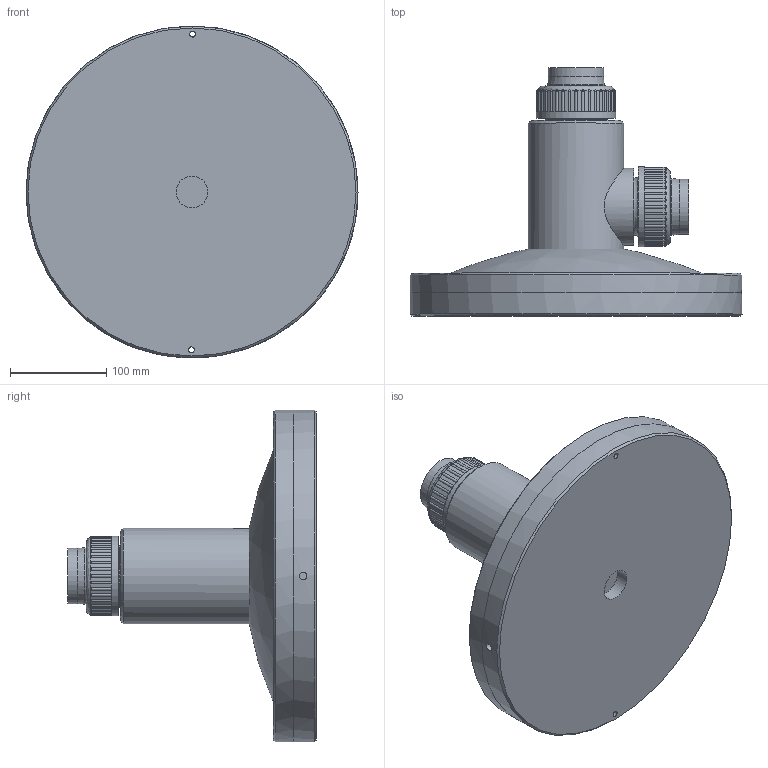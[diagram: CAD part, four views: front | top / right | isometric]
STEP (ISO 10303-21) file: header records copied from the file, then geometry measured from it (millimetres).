
FILE_DESCRIPTION (( 'STEP AP214' ), '1' );
FILE_NAME ('50-2150-0X.STEP', '2021-09-28T13:34:55', ( '' ), ( '' ), 'SwSTEP 2.0', 'SolidWorks 2020', '' );
FILE_SCHEMA (( 'AUTOMOTIVE_DESIGN' ));
Length unit declared in the file: millimetre
Products named in the file (1): 50-2150-0X
Bounding box: 345 x 258 x 345 mm (x, y, z)
Volume: 6399957 mm3; surface area: 336861.8 mm2
Topology: 1 solids, 1 shells, 457 faces, 1241 edges, 828 vertices
Faces by surface type: cylinder 196, plane 160, bspline 79, cone 20, sphere 1, torus 1
Full cylindrical faces by diameter (mm): 6 x4, 8 x1, 10 x16, 10.5 x16, 33 x1, 48.3 x2, 57.5 x2, 59 x2, 59.1 x1, 80 x1, 83 x2, 99 x1, 345 x2
Entity records: 24192 total; most frequent: CARTESIAN_POINT 8851, ORIENTED_EDGE 2142, DIRECTION 2008, EDGE_CURVE 1071, AXIS2_PLACEMENT_3D 788, VERTEX_POINT 755, EDGE_LOOP 600, FACE_OUTER_BOUND 514
